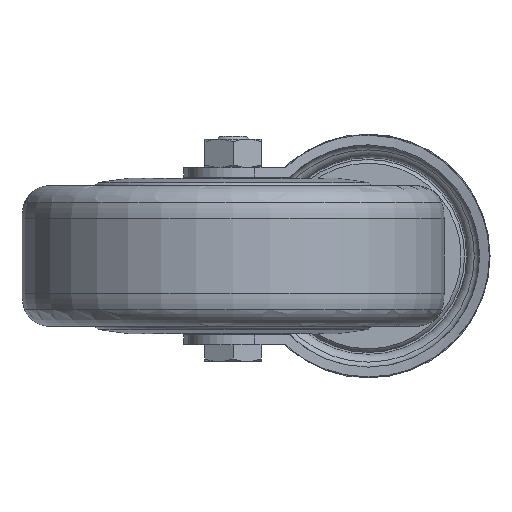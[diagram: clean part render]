
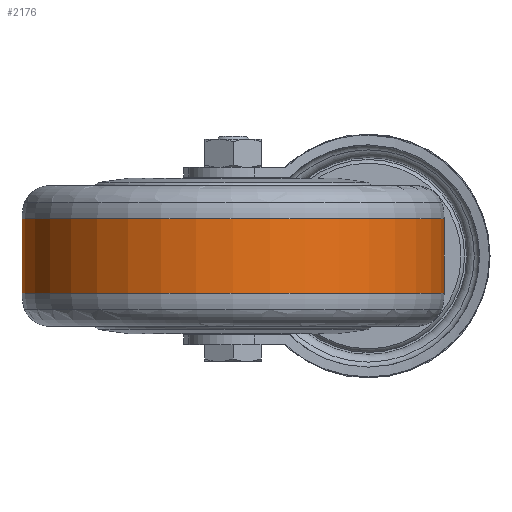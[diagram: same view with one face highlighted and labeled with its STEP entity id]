
A CAD part, front view. The second image highlights one B-rep face of the part: STEP entity #2176.
In plain terms, the highlighted cylindrical face has radius 37.5 mm (diameter 75 mm), a full revolution.
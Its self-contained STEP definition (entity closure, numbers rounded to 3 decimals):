
#219=FACE_OUTER_BOUND('',#353,.T.);
#353=EDGE_LOOP('',(#1509,#1510,#1511,#1512,#1513,#1514));
#503=LINE('',#3608,#585);
#585=VECTOR('',#2763,37.5);
#673=CIRCLE('',#2334,37.5);
#674=CIRCLE('',#2335,37.5);
#676=CIRCLE('',#2338,37.5);
#677=CIRCLE('',#2339,37.5);
#874=VERTEX_POINT('',#3424);
#875=VERTEX_POINT('',#3426);
#876=VERTEX_POINT('',#3431);
#877=VERTEX_POINT('',#3432);
#1110=EDGE_CURVE('',#875,#874,#673,.T.);
#1111=EDGE_CURVE('',#874,#875,#674,.T.);
#1113=EDGE_CURVE('',#876,#877,#676,.T.);
#1114=EDGE_CURVE('',#877,#876,#677,.T.);
#1149=EDGE_CURVE('',#876,#875,#503,.T.);
#1509=ORIENTED_EDGE('',*,*,#1113,.T.);
#1510=ORIENTED_EDGE('',*,*,#1114,.T.);
#1511=ORIENTED_EDGE('',*,*,#1149,.T.);
#1512=ORIENTED_EDGE('',*,*,#1110,.T.);
#1513=ORIENTED_EDGE('',*,*,#1111,.T.);
#1514=ORIENTED_EDGE('',*,*,#1149,.F.);
#2137=CYLINDRICAL_SURFACE('',#2374,37.5);
#2176=ADVANCED_FACE('',(#219),#2137,.T.);
#2334=AXIS2_PLACEMENT_3D('',#3427,#2681,#2682);
#2335=AXIS2_PLACEMENT_3D('',#3428,#2683,#2684);
#2338=AXIS2_PLACEMENT_3D('',#3433,#2689,#2690);
#2339=AXIS2_PLACEMENT_3D('',#3434,#2691,#2692);
#2374=AXIS2_PLACEMENT_3D('',#3607,#2761,#2762);
#2681=DIRECTION('center_axis',(0.,0.,-1.));
#2682=DIRECTION('ref_axis',(-1.,0.,0.));
#2683=DIRECTION('center_axis',(0.,0.,-1.));
#2684=DIRECTION('ref_axis',(-1.,0.,0.));
#2689=DIRECTION('center_axis',(0.,0.,1.));
#2690=DIRECTION('ref_axis',(-1.,0.,0.));
#2691=DIRECTION('center_axis',(0.,0.,1.));
#2692=DIRECTION('ref_axis',(-1.,0.,0.));
#2761=DIRECTION('center_axis',(0.,0.,-1.));
#2762=DIRECTION('ref_axis',(-1.,0.,0.));
#2763=DIRECTION('',(0.,0.,1.));
#3424=CARTESIAN_POINT('',(-61.5,-62.5,6.635));
#3426=CARTESIAN_POINT('',(13.5,-62.5,6.635));
#3427=CARTESIAN_POINT('Origin',(-24.,-62.5,6.635));
#3428=CARTESIAN_POINT('Origin',(-24.,-62.5,6.635));
#3431=CARTESIAN_POINT('',(13.5,-62.5,-6.635));
#3432=CARTESIAN_POINT('',(-61.5,-62.5,-6.635));
#3433=CARTESIAN_POINT('Origin',(-24.,-62.5,-6.635));
#3434=CARTESIAN_POINT('Origin',(-24.,-62.5,-6.635));
#3607=CARTESIAN_POINT('Origin',(-24.,-62.5,0.));
#3608=CARTESIAN_POINT('',(13.5,-62.5,0.));
